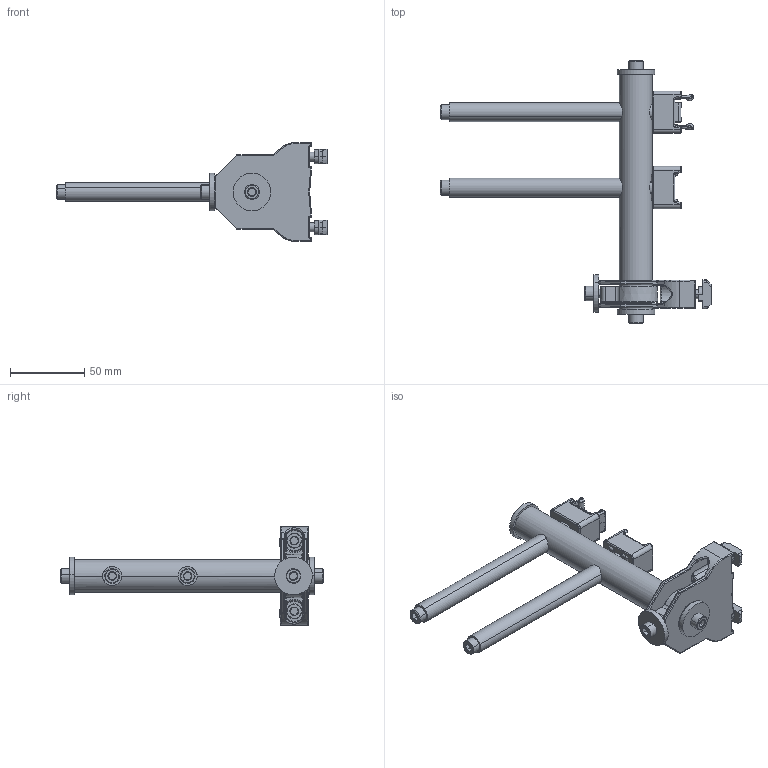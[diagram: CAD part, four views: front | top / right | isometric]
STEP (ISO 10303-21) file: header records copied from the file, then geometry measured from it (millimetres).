
FILE_DESCRIPTION((''),'2;1');
FILE_NAME('206186-02_ASM','2020-08-04T',('james.horst'),(''),'PRO/ENGINEER BY PARAMETRIC TECHNOLOGY CORPORATION, 2012420','PRO/ENGINEER BY PARAMETRIC TECHNOLOGY CORPORATION, 2012420','');
FILE_SCHEMA(('CONFIG_CONTROL_DESIGN'));
Length unit declared in the file: inch
Products named in the file (18): 807-2859_91760A321; 206381_206381; 206685; 9206XXM_920616M; 206380; 990601M; 990603M; 206692; 206189-HH_206189-02; 9206XXM_9206150M; 206383_206383; 9206XXM_920675M; 206397_206397; 911-710_911-710; 206382_206382_DRAFTS; 206188_ASM; ASM0001_ASM; 206186-02_ASM
Assembly tree (30 placements, depth 4):
  206186-02_ASM
    ASM0001_ASM
      807-2859_91760A321  x2
      206381_206381
      206685  x2
      9206XXM_920616M
      206380
      990601M
      990603M
      206188_ASM
        206692  x2
        206189-HH_206189-02
        9206XXM_9206150M  x2
        206383_206383  x2
        9206XXM_920675M
        206397_206397  x2
        911-710_911-710  x2
        9206XXM_920616M
        990603M  x2
        206382_206382_DRAFTS  x2
        990601M
      911-710_911-710
Bounding box: 182.82 x 176.92 x 66.79 mm (x, y, z)
Volume: 111772.9 mm3; surface area: 93395.7 mm2
Topology: 28 solids, 28 shells, 1300 faces, 3058 edges, 1742 vertices
Faces by surface type: cylinder 437, plane 332, cone 196, bspline 158, torus 129, sphere 48
Entity records: 35651 total; most frequent: CARTESIAN_POINT 16859, ORIENTED_EDGE 3864, DIRECTION 3834, EDGE_CURVE 1932, AXIS2_PLACEMENT_3D 1534, VERTEX_POINT 1123, EDGE_LOOP 875, FACE_OUTER_BOUND 836
